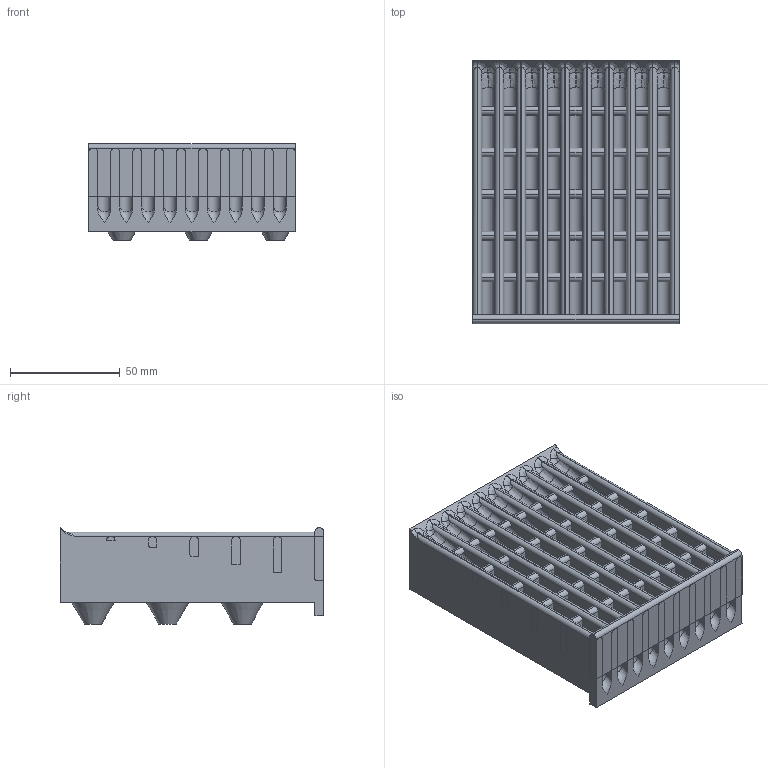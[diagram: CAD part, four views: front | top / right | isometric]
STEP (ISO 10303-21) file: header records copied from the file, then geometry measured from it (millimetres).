
FILE_DESCRIPTION(/* description */ ('STEP AP242','CAx-IF Rec.Pracs.---Representation and Presentation of Product Manufacturing Information (PMI)---4.0---2014-10-13','CAx-IF Rec.Pracs.---3D Tessellated Geometry---0.4---2014-09-14','2;1'),/* implementation_level */ '2;1');
FILE_NAME(/* name */ '66c9b4abffaa4d41a46b340c',/* time_stamp */ '2024-08-24T10:23:40Z',/* author */ (''),/* organization */ (''),/* preprocessor_version */ 'ST-DEVELOPER v20',/* originating_system */ ' ',/* authorisation */ ' ');
FILE_SCHEMA (('AP242_MANAGED_MODEL_BASED_3D_ENGINEERING_MIM_LF { 1 0 10303 442 1 1 4 }'));
Length unit declared in the file: metre
Products named in the file (8): Part 2; Part 8; Part 7; Part 6; Part 5; Part 4; Part 3; Part 1
Bounding box: 94 x 120 x 44.07 mm (x, y, z)
Volume: 295392.7 mm3; surface area: 84341.3 mm2
Topology: 8 solids, 8 shells, 230 faces, 561 edges, 350 vertices
Faces by surface type: plane 88, cylinder 69, bspline 58, torus 10, cone 5
Entity records: 7458 total; most frequent: CARTESIAN_POINT 2051, DIRECTION 1103, ORIENTED_EDGE 1102, EDGE_CURVE 551, AXIS2_PLACEMENT_3D 434, VERTEX_POINT 345, EDGE_LOOP 238, FACE_BOUND 238
